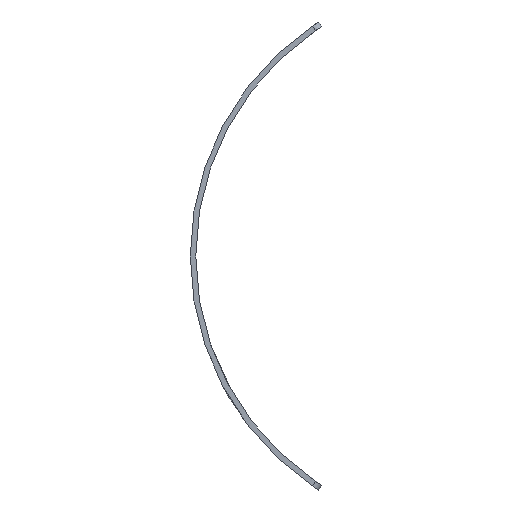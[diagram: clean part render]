
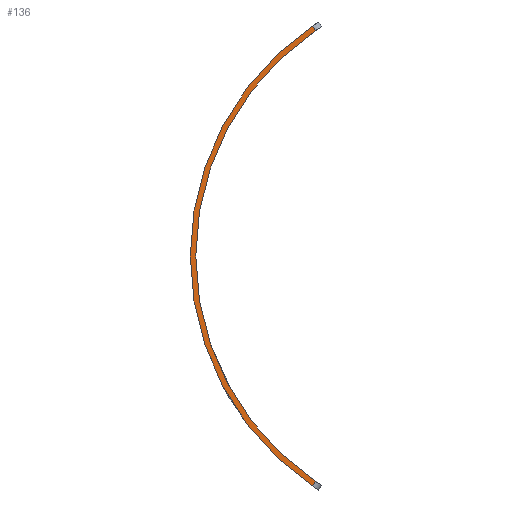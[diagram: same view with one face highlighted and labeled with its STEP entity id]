
A CAD part, left-side view. The second image highlights one B-rep face of the part: STEP entity #136.
In plain terms, the highlighted planar face has unit normal (-1, 0, 0).
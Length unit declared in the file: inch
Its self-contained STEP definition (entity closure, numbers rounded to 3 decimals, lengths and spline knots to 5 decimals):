
#4 = ORIENTED_EDGE ( 'NONE', *, *, #408, .F. ) ;
#19 = VERTEX_POINT ( 'NONE', #181 ) ;
#55 = DIRECTION ( 'NONE',  ( 0., 1., 0. ) ) ;
#87 = CARTESIAN_POINT ( 'NONE',  ( -15., -98.81332, 31.41083 ) ) ;
#94 = CARTESIAN_POINT ( 'NONE',  ( -15., -98.82041, 31.39969 ) ) ;
#105 = CIRCLE ( 'NONE', #157, 37.125 ) ;
#110 = CARTESIAN_POINT ( 'NONE',  ( -15., -99.22339, -30.76684 ) ) ;
#136 = ADVANCED_FACE ( 'NONE', ( #383 ), #682, .F. ) ;
#140 = VERTEX_POINT ( 'NONE', #94 ) ;
#157 = AXIS2_PLACEMENT_3D ( 'NONE', #176, #633, #55 ) ;
#165 = DIRECTION ( 'NONE',  ( 0., 0., 1. ) ) ;
#167 = ORIENTED_EDGE ( 'NONE', *, *, #241, .T. ) ;
#176 = CARTESIAN_POINT ( 'NONE',  ( -15., -120., 0. ) ) ;
#179 = VECTOR ( 'NONE', #618, 39.37008 ) ;
#181 = CARTESIAN_POINT ( 'NONE',  ( -15., -99.22339, 30.76684 ) ) ;
#208 = LINE ( 'NONE', #87, #179 ) ;
#241 = EDGE_CURVE ( 'NONE', #567, #19, #105, .T. ) ;
#321 = ORIENTED_EDGE ( 'NONE', *, *, #619, .T. ) ;
#357 = AXIS2_PLACEMENT_3D ( 'NONE', #738, #450, #165 ) ;
#383 = FACE_OUTER_BOUND ( 'NONE', #718, .T. ) ;
#395 = VERTEX_POINT ( 'NONE', #746 ) ;
#408 = EDGE_CURVE ( 'NONE', #395, #140, #468, .T. ) ;
#450 = DIRECTION ( 'NONE',  ( 1., 0., 0. ) ) ;
#451 = DIRECTION ( 'NONE',  ( 1., 0., 0. ) ) ;
#468 = CIRCLE ( 'NONE', #357, 37.875 ) ;
#469 = VECTOR ( 'NONE', #582, 39.37008 ) ;
#473 = LINE ( 'NONE', #533, #469 ) ;
#474 = ORIENTED_EDGE ( 'NONE', *, *, #681, .T. ) ;
#509 = DIRECTION ( 'NONE',  ( 0., 0., -1. ) ) ;
#533 = CARTESIAN_POINT ( 'NONE',  ( -15., -99.21616, -30.7782 ) ) ;
#539 = AXIS2_PLACEMENT_3D ( 'NONE', #610, #451, #509 ) ;
#567 = VERTEX_POINT ( 'NONE', #110 ) ;
#582 = DIRECTION ( 'NONE',  ( 0., -0.537, 0.844 ) ) ;
#610 = CARTESIAN_POINT ( 'NONE',  ( -15., -120., 0. ) ) ;
#618 = DIRECTION ( 'NONE',  ( 0., 0.537, 0.844 ) ) ;
#619 = EDGE_CURVE ( 'NONE', #395, #567, #473, .T. ) ;
#633 = DIRECTION ( 'NONE',  ( 1., 0., 0. ) ) ;
#681 = EDGE_CURVE ( 'NONE', #19, #140, #208, .T. ) ;
#682 = PLANE ( 'NONE',  #539 ) ;
#718 = EDGE_LOOP ( 'NONE', ( #4, #321, #167, #474 ) ) ;
#738 = CARTESIAN_POINT ( 'NONE',  ( -15., -120., 0. ) ) ;
#746 = CARTESIAN_POINT ( 'NONE',  ( -15., -98.82041, -31.39969 ) ) ;
